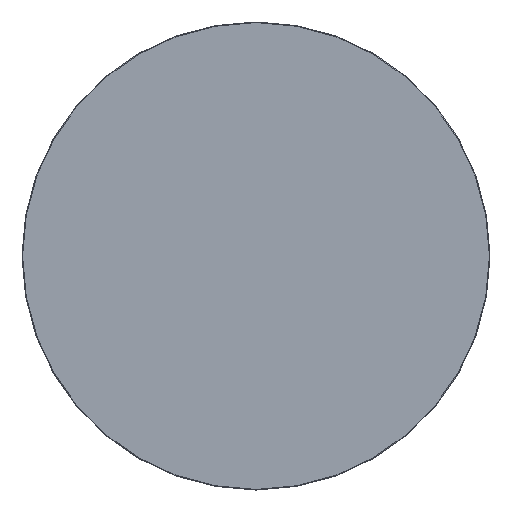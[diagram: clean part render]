
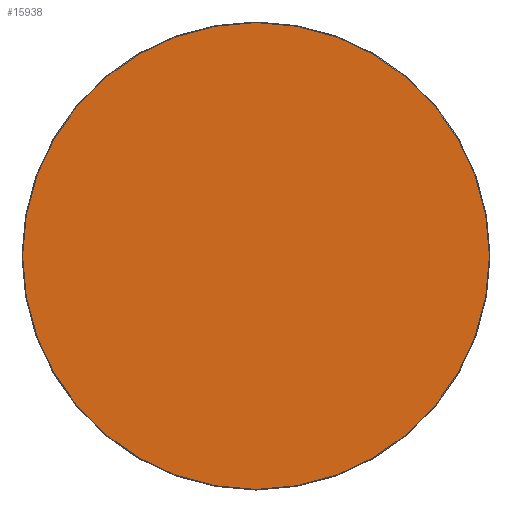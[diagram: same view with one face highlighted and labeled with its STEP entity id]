
A CAD part, top view. The second image highlights one B-rep face of the part: STEP entity #15938.
In plain terms, the highlighted planar face has unit normal (0, 0, 1).
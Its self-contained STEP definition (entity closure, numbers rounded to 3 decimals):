
#15863=CARTESIAN_POINT('',(0.,0.,20.));
#15864=DIRECTION('',(1.,0.,0.));
#15865=DIRECTION('',(0.,0.,1.));
#15866=AXIS2_PLACEMENT_3D('',#15863,#15865,#15864);
#15867=PLANE('',#15866);
#15868=CARTESIAN_POINT('',(-0.5,-548.5,20.));
#15869=VERTEX_POINT('',#15868);
#15870=CARTESIAN_POINT('',(0.5,-548.5,20.));
#15871=VERTEX_POINT('',#15870);
#15872=CARTESIAN_POINT('',(-0.5,-548.5,20.));
#15873=DIRECTION('',(1.,0.,0.));
#15874=VECTOR('',#15873,1.);
#15875=LINE('',#15872,#15874);
#15876=EDGE_CURVE('',#15869,#15871,#15875,.T.);
#15877=ORIENTED_EDGE('E105',*,*,#15876,.T.);
#15878=CARTESIAN_POINT('',(548.5,-0.5,20.));
#15879=VERTEX_POINT('',#15878);
#15880=CARTESIAN_POINT('',(0.5,-0.5,20.));
#15881=DIRECTION('',(0.,-1.,0.));
#15882=DIRECTION('',(0.,-0.,1.));
#15883=AXIS2_PLACEMENT_3D('',#15880,#15882,#15881);
#15884=CIRCLE('',#15883,548.);
#15885=EDGE_CURVE('',#15871,#15879,#15884,.T.);
#15886=ORIENTED_EDGE('E107',*,*,#15885,.T.);
#15887=CARTESIAN_POINT('',(548.5,0.5,20.));
#15888=VERTEX_POINT('',#15887);
#15889=CARTESIAN_POINT('',(548.5,-0.5,20.));
#15890=DIRECTION('',(0.,1.,0.));
#15891=VECTOR('',#15890,1.);
#15892=LINE('',#15889,#15891);
#15893=EDGE_CURVE('',#15879,#15888,#15892,.T.);
#15894=ORIENTED_EDGE('E109',*,*,#15893,.T.);
#15895=CARTESIAN_POINT('',(0.5,548.5,20.));
#15896=VERTEX_POINT('',#15895);
#15897=CARTESIAN_POINT('',(0.5,0.5,20.));
#15898=DIRECTION('',(1.,0.,0.));
#15899=DIRECTION('',(0.,0.,1.));
#15900=AXIS2_PLACEMENT_3D('',#15897,#15899,#15898);
#15901=CIRCLE('',#15900,548.);
#15902=EDGE_CURVE('',#15888,#15896,#15901,.T.);
#15903=ORIENTED_EDGE('E111',*,*,#15902,.T.);
#15904=CARTESIAN_POINT('',(-0.5,548.5,20.));
#15905=VERTEX_POINT('',#15904);
#15906=CARTESIAN_POINT('',(0.5,548.5,20.));
#15907=DIRECTION('',(-1.,0.,0.));
#15908=VECTOR('',#15907,1.);
#15909=LINE('',#15906,#15908);
#15910=EDGE_CURVE('',#15896,#15905,#15909,.T.);
#15911=ORIENTED_EDGE('E113',*,*,#15910,.T.);
#15912=CARTESIAN_POINT('',(-548.5,0.5,20.));
#15913=VERTEX_POINT('',#15912);
#15914=CARTESIAN_POINT('',(-0.5,0.5,20.));
#15915=DIRECTION('',(0.,1.,0.));
#15916=DIRECTION('',(0.,0.,1.));
#15917=AXIS2_PLACEMENT_3D('',#15914,#15916,#15915);
#15918=CIRCLE('',#15917,548.);
#15919=EDGE_CURVE('',#15905,#15913,#15918,.T.);
#15920=ORIENTED_EDGE('E115',*,*,#15919,.T.);
#15921=CARTESIAN_POINT('',(-548.5,-0.5,20.));
#15922=VERTEX_POINT('',#15921);
#15923=CARTESIAN_POINT('',(-548.5,0.5,20.));
#15924=DIRECTION('',(0.,-1.,0.));
#15925=VECTOR('',#15924,1.);
#15926=LINE('',#15923,#15925);
#15927=EDGE_CURVE('',#15913,#15922,#15926,.T.);
#15928=ORIENTED_EDGE('E117',*,*,#15927,.T.);
#15929=CARTESIAN_POINT('',(-0.5,-0.5,20.));
#15930=DIRECTION('',(-1.,0.,0.));
#15931=DIRECTION('',(-0.,0.,1.));
#15932=AXIS2_PLACEMENT_3D('',#15929,#15931,#15930);
#15933=CIRCLE('',#15932,548.);
#15934=EDGE_CURVE('',#15922,#15869,#15933,.T.);
#15935=ORIENTED_EDGE('E119',*,*,#15934,.T.);
#15936=EDGE_LOOP('',(#15877,#15886,#15894,#15903,#15911,#15920,#15928,#15935));
#15937=FACE_OUTER_BOUND('',#15936,.T.);
#15938=ADVANCED_FACE('F2',(#15937),#15867,.T.);
